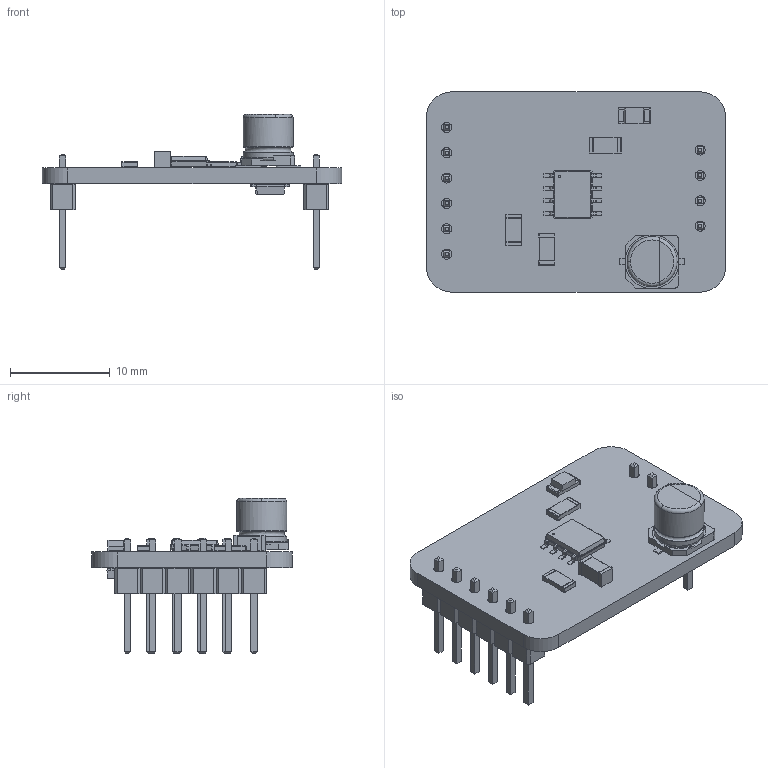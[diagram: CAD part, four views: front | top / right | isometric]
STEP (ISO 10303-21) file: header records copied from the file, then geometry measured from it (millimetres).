
FILE_DESCRIPTION(('KiCad electronic assembly'),'2;1');
FILE_NAME('DRV8871_PCB.step','2024-10-29T16:14:55',('Pcbnew'),('Kicad'), 'Open CASCADE STEP processor 7.8','KiCad to STEP converter','Unknown' );
FILE_SCHEMA(('AUTOMOTIVE_DESIGN { 1 0 10303 214 1 1 1 1 }'));
Length unit declared in the file: millimetre
Products named in the file (18): DRV8871_PCB 1; C_1206_3216Metric; Texas_HTSOP-8-1EP_3.9x4.9mm_P1.27mm_EP2.85x4.9mm_Mask2.4x3.1mm_
ThermalVias; Texas_HTSOP_8_1EP_39x49mm_P127mm_EP285x49mm_Mask24x31mm_ThermalVias; LED_1206_3216Metric; CP_Elec_5x5.3; CP_Elec_5x53; R_1206_3216Metric; PinHeader_1x04_P2.54mm_Vertical; PinHeader_1x04_P254mm_Vertical; D_SMF; PinHeader_1x06_P2.54mm_Vertical; PinHeader_1x06_P254mm_Vertical; _autosave-DRV8871_PCB_PCB
Assembly tree (19 placements, depth 3):
  DRV8871_PCB 1
    C_1206_3216Metric
      C_1206_3216Metric
    Texas_HTSOP-8-1EP_3.9x4.9mm_P1.27mm_EP2.85x4.9mm_Mask2.4x3.1mm_
ThermalVias
      Texas_HTSOP_8_1EP_39x49mm_P127mm_EP285x49mm_Mask24x31mm_ThermalVias
    LED_1206_3216Metric
      LED_1206_3216Metric
    CP_Elec_5x5.3
      CP_Elec_5x53
    R_1206_3216Metric  x2
      R_1206_3216Metric
    PinHeader_1x04_P2.54mm_Vertical
      PinHeader_1x04_P254mm_Vertical
    D_SMF  x2
      D_SMF
    PinHeader_1x06_P2.54mm_Vertical
      PinHeader_1x06_P254mm_Vertical
    _autosave-DRV8871_PCB_PCB
Bounding box: 29.97 x 20.07 x 15.54 mm (x, y, z)
Volume: 1286.8 mm3; surface area: 2239.1 mm2
Topology: 11 solids, 11 shells, 659 faces, 1651 edges, 1041 vertices
Faces by surface type: plane 501, cylinder 99, bspline 54, torus 4, revolution 1
Full cylindrical faces by diameter (mm): 0.2 x1, 0.33 x6, 1 x10, 5 x2
Entity records: 22094 total; most frequent: CARTESIAN_POINT 3433, ORIENTED_EDGE 3026, DIRECTION 2812, EDGE_CURVE 1513, LINE 1271, VECTOR 1271, VERTEX_POINT 953, AXIS2_PLACEMENT_3D 770
